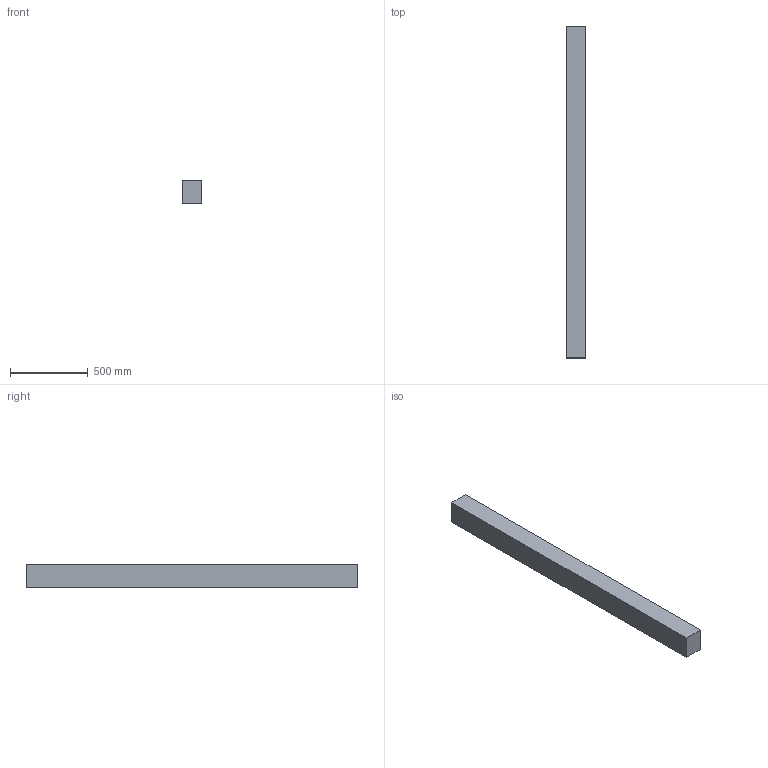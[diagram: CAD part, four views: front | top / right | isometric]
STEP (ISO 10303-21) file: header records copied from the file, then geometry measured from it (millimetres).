
FILE_DESCRIPTION(/* description */ (''),/* implementation_level */ '2;1');
FILE_NAME(/* name */ '5x6x84',/* time_stamp */ '2024-09-20T11:46:27-05:00',/* author */ (''),/* organization */ (''),/* preprocessor_version */ 'ST-DEVELOPER v19.2',/* originating_system */ 'Rhino 8.5',/* authorisation */ '');
FILE_SCHEMA (('CONFIG_CONTROL_DESIGN'));
Length unit declared in the file: inch
Products named in the file (1): Document
Bounding box: 127 x 2133.6 x 152.4 mm (x, y, z)
Volume: 41295401.3 mm3; surface area: 1230965.3 mm2
Topology: 1 solids, 1 shells, 6 faces, 12 edges, 8 vertices
Faces by surface type: plane 6
Entity records: 226 total; most frequent: CARTESIAN_POINT 40, ORIENTED_EDGE 24, EDGE_CURVE 12, B_SPLINE_CURVE_WITH_KNOTS 12, DIRECTION 10, VERTEX_POINT 8, AXIS2_PLACEMENT_3D 8, ORGANIZATION 7
